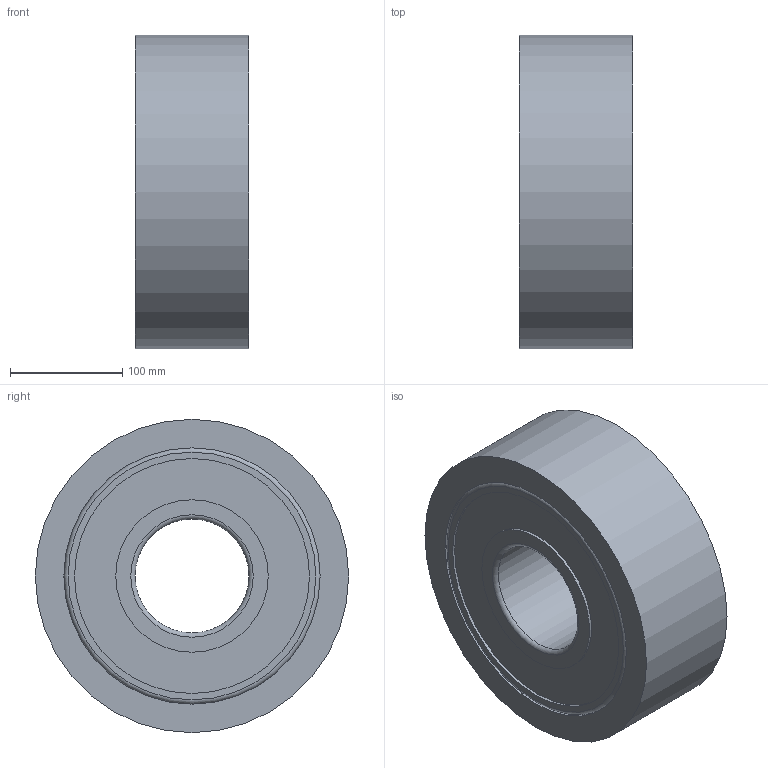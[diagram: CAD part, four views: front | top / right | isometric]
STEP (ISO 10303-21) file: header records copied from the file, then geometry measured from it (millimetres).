
FILE_DESCRIPTION((''),'1');
FILE_NAME('H:/図庫/国内ﾕﾆｯﾄ/ｶﾀﾛｸﾞ/ｺﾞﾑ直巻/ホームページ用ＣＡＤ図面/update用/3', '2017-07-14T08:48:26',(''), (''), 'KCM Version 1.1.1442.0', 'Kubotek KeyCreator', '');
FILE_SCHEMA(('AUTOMOTIVE_DESIGN'));
Length unit declared in the file: inch
Bounding box: 101.6 x 279.4 x 279.4 mm (x, y, z)
Surface area: 241083.5 mm2 (no closed solid volume)
Topology: 0 solids, 20 shells, 20 faces, 68 edges, 56 vertices
Faces by surface type: cylinder 8, plane 8, torus 4
Full cylindrical faces by diameter (mm): 101.6 x1, 135.89 x2, 209.55 x2, 228.6 x2, 279.4 x1
Entity records: 790 total; most frequent: DIRECTION 154, CARTESIAN_POINT 137, ORIENTED_EDGE 80, AXIS2_PLACEMENT_3D 73, EDGE_CURVE 68, VERTEX_POINT 56, CIRCLE 52, EDGE_LOOP 28
